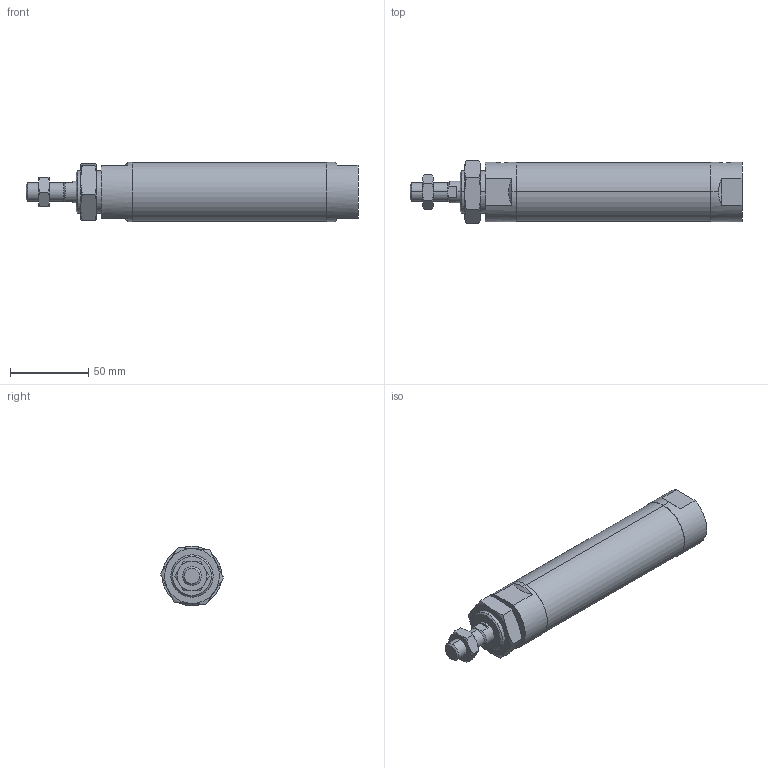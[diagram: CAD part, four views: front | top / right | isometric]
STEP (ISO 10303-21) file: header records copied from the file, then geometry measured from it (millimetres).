
FILE_DESCRIPTION (( 'STEP AP203' ), '1' );
FILE_NAME ('JGND2-32-75-N.STEP', '2016-08-04T02:51:12', ( '' ), ( '' ), 'SwSTEP 2.0', 'SolidWorks 2014', '' );
FILE_SCHEMA (( 'CONFIG_CONTROL_DESIGN' ));
Length unit declared in the file: millimetre
Products named in the file (4): JGND2-32-75-N; J#2-32-75(P)
Assembly tree (3 placements, depth 2):
  JGND2-32-75-N
    J#2-32-75(P)
    (unnamed)
    (unnamed)
Bounding box: 212 x 40.33 x 38 mm (x, y, z)
Volume: 199058.7 mm3; surface area: 29575.3 mm2
Topology: 3 solids, 3 shells, 89 faces, 200 edges, 119 vertices
Faces by surface type: plane 32, torus 24, cylinder 20, cone 13
Entity records: 3321 total; most frequent: CARTESIAN_POINT 1017, DIRECTION 395, ORIENTED_EDGE 392, EDGE_CURVE 196, AXIS2_PLACEMENT_3D 167, VERTEX_POINT 119, EDGE_LOOP 99, FACE_OUTER_BOUND 89
